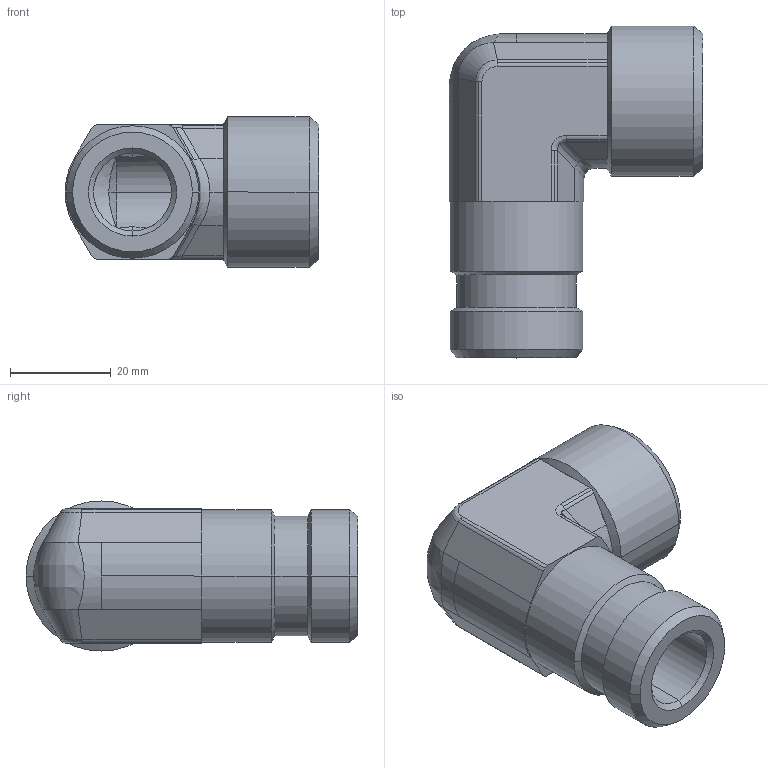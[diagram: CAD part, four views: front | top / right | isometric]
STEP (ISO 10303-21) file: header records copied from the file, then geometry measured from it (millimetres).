
FILE_DESCRIPTION((''),'2;1');
FILE_NAME('106120.stp','2007-10-31T14:49:14',(''),(''),'AutoCAD STEP 2000i','AutoCAD 2000i',', , ');
FILE_SCHEMA(('CONFIG_CONTROL_DESIGN'));
Length unit declared in the file: millimetre
Products named in the file (2): 106120.0; 3090#0
Assembly tree (1 placements, depth 2):
  106120.0
    3090#0
Bounding box: 50.38 x 65.91 x 29.82 mm (x, y, z)
Volume: 33069.9 mm3; surface area: 12888.5 mm2
Topology: 1 solids, 1 shells, 101 faces, 233 edges, 138 vertices
Faces by surface type: cylinder 46, plane 22, cone 21, bspline 12
Entity records: 3851 total; most frequent: CARTESIAN_POINT 1467, DIRECTION 496, ORIENTED_EDGE 466, EDGE_CURVE 233, AXIS2_PLACEMENT_3D 201, VERTEX_POINT 138, EDGE_LOOP 107, FACE_OUTER_BOUND 101
